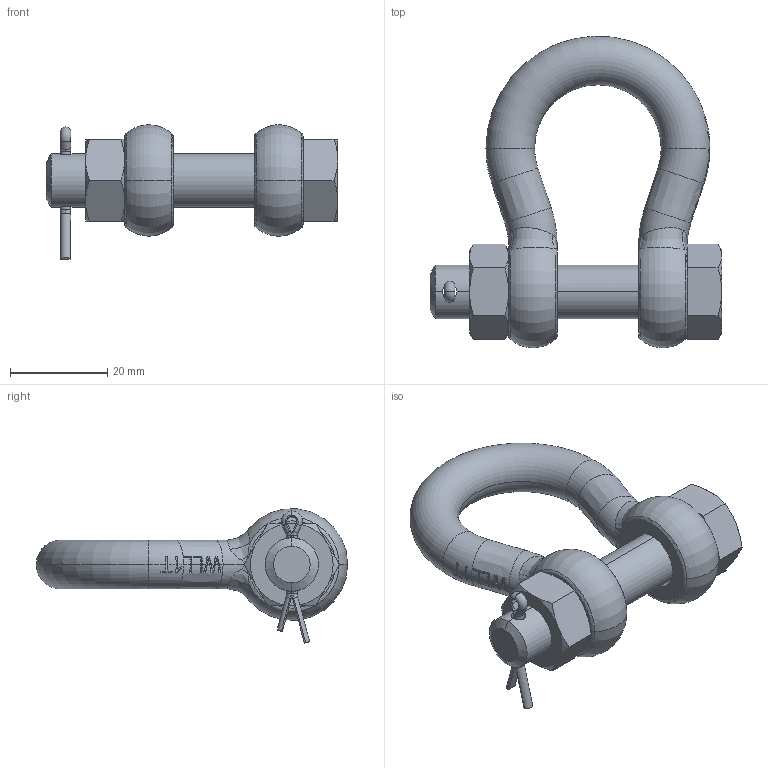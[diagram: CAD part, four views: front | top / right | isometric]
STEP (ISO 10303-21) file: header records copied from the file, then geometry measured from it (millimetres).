
FILE_DESCRIPTION (( 'STEP AP214' ), '1' );
FILE_NAME ('GPGHMB10.STEP', '2024-02-12T19:34:02', ( '' ), ( '' ), 'SwSTEP 2.0', 'SolidWorks 2018', '' );
FILE_SCHEMA (( 'AUTOMOTIVE_DESIGN' ));
Length unit declared in the file: millimetre
Products named in the file (5): GPGHMB10; gpghmb10_01; gpghmb10_04; gpghmb10_03; gpghmb10_02
Assembly tree (4 placements, depth 2):
  GPGHMB10
    gpghmb10_01
    gpghmb10_02
    gpghmb10_03
    gpghmb10_04
Bounding box: 59.9 x 63.98 x 27.61 mm (x, y, z)
Volume: 20873.4 mm3; surface area: 9901.7 mm2
Topology: 4 solids, 4 shells, 316 faces, 818 edges, 497 vertices
Faces by surface type: plane 104, bspline 78, cylinder 62, torus 46, cone 26
Entity records: 15037 total; most frequent: CARTESIAN_POINT 7943, ORIENTED_EDGE 1604, DIRECTION 1205, EDGE_CURVE 802, VERTEX_POINT 497, AXIS2_PLACEMENT_3D 467, EDGE_LOOP 327, ADVANCED_FACE 316
